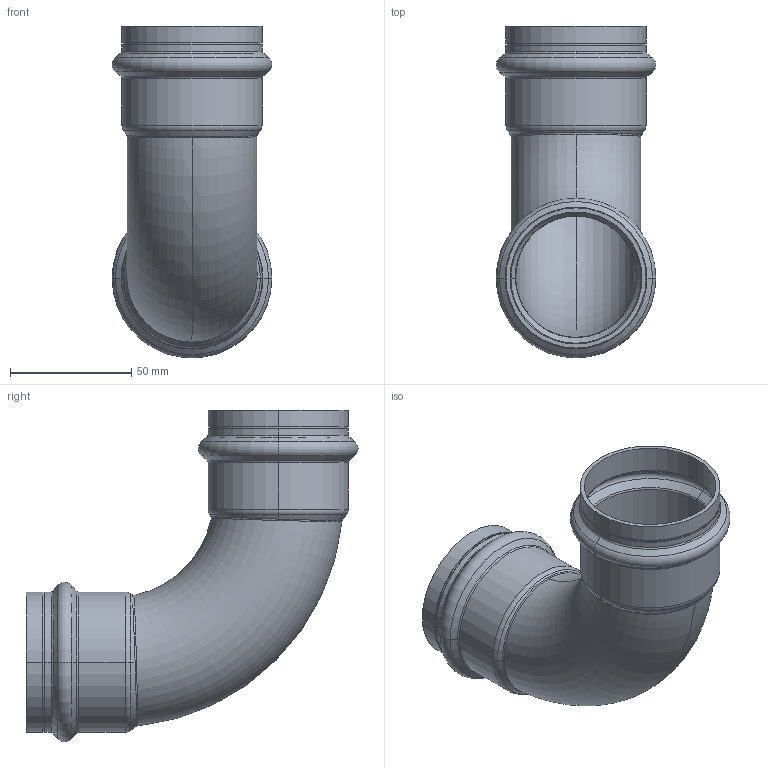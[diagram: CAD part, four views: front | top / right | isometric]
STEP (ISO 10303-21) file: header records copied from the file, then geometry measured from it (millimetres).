
FILE_DESCRIPTION (( 'STEP AP203' ), '1' );
FILE_NAME ('SP5002 Ø54.STEP', '2017-04-24T08:06:16', ( '' ), ( '' ), 'SwSTEP 2.0', 'SolidWorks 2016', '' );
FILE_SCHEMA (( 'CONFIG_CONTROL_DESIGN' ));
Length unit declared in the file: millimetre
Products named in the file (1): SP5002 ﾘ54
Bounding box: 65.86 x 136.93 x 136.93 mm (x, y, z)
Volume: 57281.2 mm3; surface area: 64755.6 mm2
Topology: 1 solids, 1 shells, 98 faces, 228 edges, 136 vertices
Faces by surface type: torus 36, cone 24, cylinder 24, bspline 8, plane 6
Entity records: 5222 total; most frequent: CARTESIAN_POINT 2884, DIRECTION 526, ORIENTED_EDGE 456, AXIS2_PLACEMENT_3D 239, EDGE_CURVE 228, CIRCLE 148, VERTEX_POINT 136, EDGE_LOOP 104
